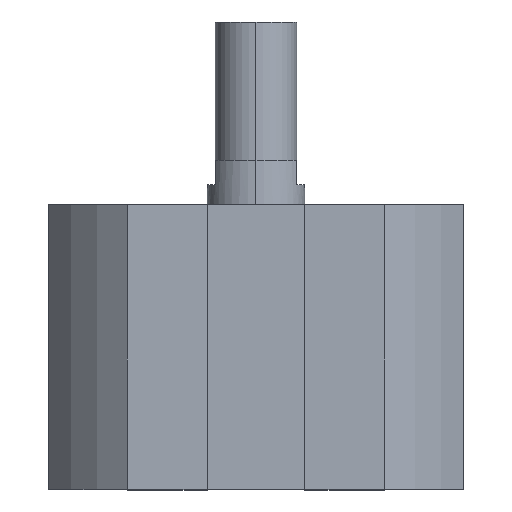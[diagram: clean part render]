
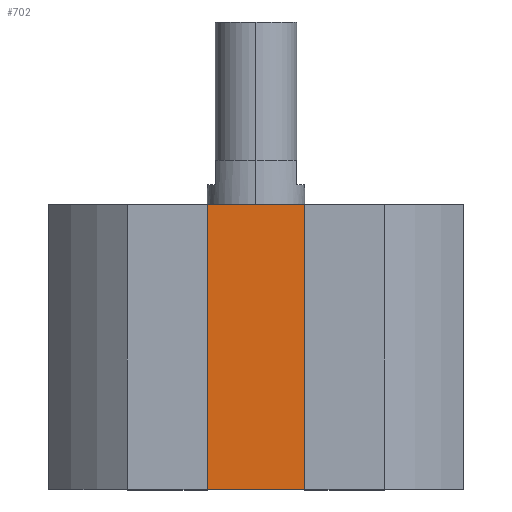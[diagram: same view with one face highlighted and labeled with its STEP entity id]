
A CAD part, top view. The second image highlights one B-rep face of the part: STEP entity #702.
In plain terms, the highlighted planar face has unit normal (0, 0, 1).
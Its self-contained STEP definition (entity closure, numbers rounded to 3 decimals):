
#53 = CARTESIAN_POINT ( 'NONE',  ( 7.7, 0., 17. ) ) ;
#69 = VECTOR ( 'NONE', #2338, 1000. ) ;
#83 = AXIS2_PLACEMENT_3D ( 'NONE', #592, #1472, #171 ) ;
#105 = VECTOR ( 'NONE', #1857, 1000. ) ;
#171 = DIRECTION ( 'NONE',  ( 1., 0., 0. ) ) ;
#208 = LINE ( 'NONE', #567, #105 ) ;
#209 = DIRECTION ( 'NONE',  ( 1., 0., 0. ) ) ;
#237 = EDGE_CURVE ( 'NONE', #2539, #1910, #2595, .T. ) ;
#288 = VECTOR ( 'NONE', #1968, 1000. ) ;
#400 = ORIENTED_EDGE ( 'NONE', *, *, #1167, .F. ) ;
#506 = EDGE_CURVE ( 'NONE', #1826, #1910, #208, .T. ) ;
#512 = VECTOR ( 'NONE', #209, 1000. ) ;
#567 = CARTESIAN_POINT ( 'NONE',  ( 0., 0., 17. ) ) ;
#579 = CARTESIAN_POINT ( 'NONE',  ( -7.7, -35., 17. ) ) ;
#592 = CARTESIAN_POINT ( 'NONE',  ( 0., -35., 17. ) ) ;
#702 = ADVANCED_FACE ( 'NONE', ( #903 ), #2569, .T. ) ;
#798 = LINE ( 'NONE', #1496, #512 ) ;
#903 = FACE_OUTER_BOUND ( 'NONE', #2629, .T. ) ;
#995 = ORIENTED_EDGE ( 'NONE', *, *, #506, .F. ) ;
#1143 = CARTESIAN_POINT ( 'NONE',  ( -7.7, 0., 17. ) ) ;
#1167 = EDGE_CURVE ( 'NONE', #1176, #1826, #1536, .T. ) ;
#1176 = VERTEX_POINT ( 'NONE', #1459 ) ;
#1199 = ORIENTED_EDGE ( 'NONE', *, *, #2287, .T. ) ;
#1413 = ORIENTED_EDGE ( 'NONE', *, *, #237, .T. ) ;
#1459 = CARTESIAN_POINT ( 'NONE',  ( -7.7, -35., 17. ) ) ;
#1472 = DIRECTION ( 'NONE',  ( 0., 0., 1. ) ) ;
#1496 = CARTESIAN_POINT ( 'NONE',  ( 0., -35., 17. ) ) ;
#1536 = LINE ( 'NONE', #579, #69 ) ;
#1826 = VERTEX_POINT ( 'NONE', #1143 ) ;
#1857 = DIRECTION ( 'NONE',  ( 1., 0., 0. ) ) ;
#1910 = VERTEX_POINT ( 'NONE', #53 ) ;
#1950 = CARTESIAN_POINT ( 'NONE',  ( 7.7, -35., 17. ) ) ;
#1968 = DIRECTION ( 'NONE',  ( 0., 1., 0. ) ) ;
#2287 = EDGE_CURVE ( 'NONE', #1176, #2539, #798, .T. ) ;
#2338 = DIRECTION ( 'NONE',  ( 0., 1., 0. ) ) ;
#2370 = CARTESIAN_POINT ( 'NONE',  ( 7.7, -35., 17. ) ) ;
#2539 = VERTEX_POINT ( 'NONE', #2370 ) ;
#2569 = PLANE ( 'NONE',  #83 ) ;
#2595 = LINE ( 'NONE', #1950, #288 ) ;
#2629 = EDGE_LOOP ( 'NONE', ( #995, #400, #1199, #1413 ) ) ;
